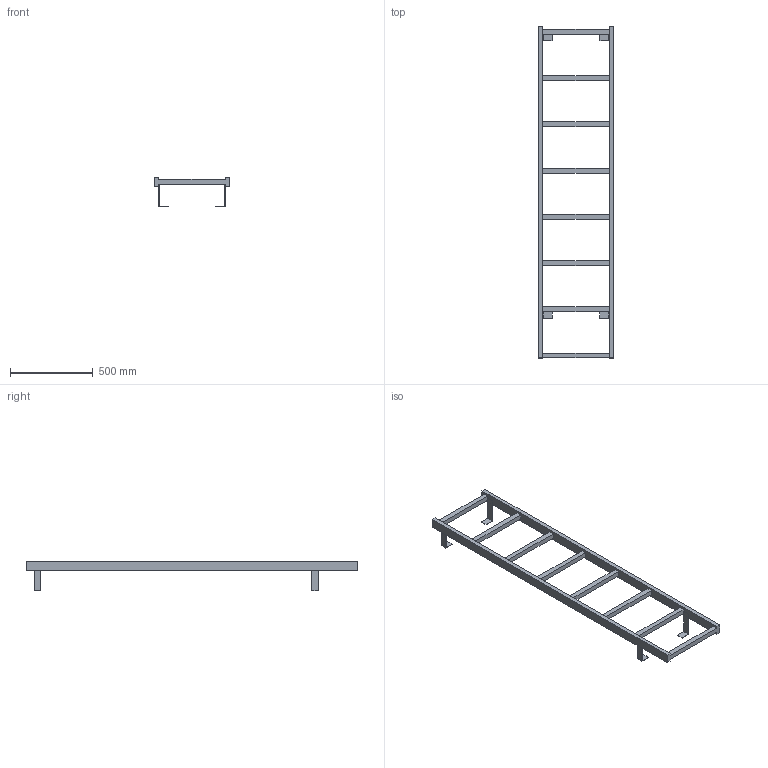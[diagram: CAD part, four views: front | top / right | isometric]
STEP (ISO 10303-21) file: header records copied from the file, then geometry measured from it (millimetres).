
FILE_DESCRIPTION((''),'2;1');
FILE_NAME('52311084','2024-10-17T13:06:52',('wep'),('HUBER SE'),'CREO PARAMETRIC BY PTC INC, 2022162','CREO PARAMETRIC BY PTC INC, 2022162','');
FILE_SCHEMA(('AUTOMOTIVE_DESIGN { 1 0 10303 214 1 1 1 1 }'));
Length unit declared in the file: millimetre
Products named in the file (1): 52311084
Bounding box: 450 x 2010 x 178.5 mm (x, y, z)
Volume: 8673460 mm3; surface area: 1094068 mm2
Topology: 1 solids, 1 shells, 74 faces, 216 edges, 140 vertices
Faces by surface type: plane 74
Entity records: 2981 total; most frequent: CARTESIAN_POINT 432, ORIENTED_EDGE 432, DIRECTION 364, VECTOR 216, LINE 216, EDGE_CURVE 216, VERTEX_POINT 140, COLOUR_RGB 106
